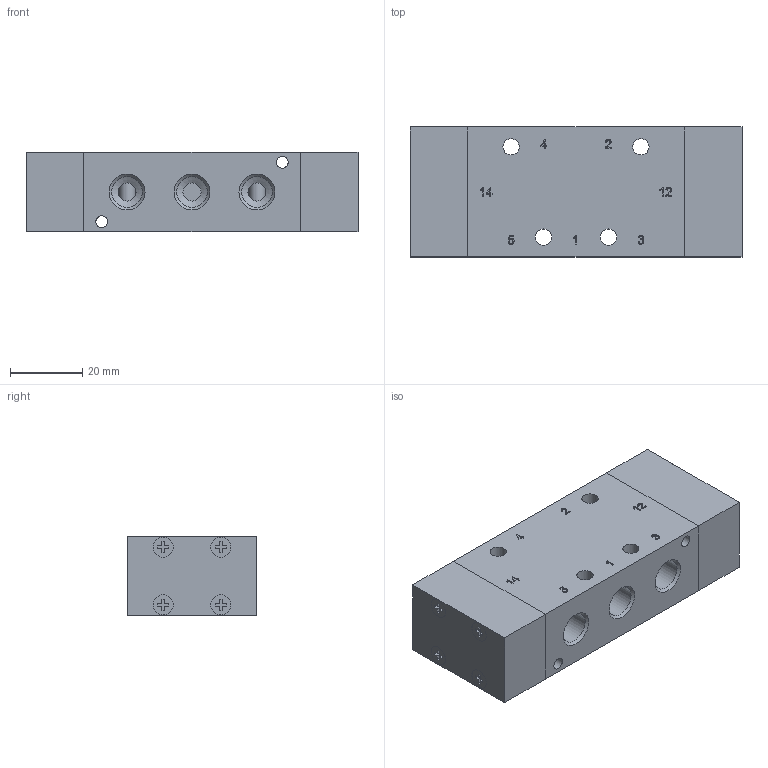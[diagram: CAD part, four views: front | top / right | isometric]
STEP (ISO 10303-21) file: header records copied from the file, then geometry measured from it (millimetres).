
FILE_DESCRIPTION(/* description */ ('Unknown'),/* implementation_level */ '2;1');
FILE_NAME(/* name */ 'P 531 501 G',/* time_stamp */ '2024-03-27T10:18:03+01:00',/* author */ ('Unknown'),/* organization */ ('HAFNER Pneumatika Kft.'),/* preprocessor_version */ 'ST-DEVELOPER v18.102',/* originating_system */ 'Solid Edge',/* authorisation */ 'Unknown');
FILE_SCHEMA (('AUTOMOTIVE_DESIGN {1 0 10303 214 3 1 1}'));
Length unit declared in the file: millimetre
Products named in the file (2): P 531 501 G
Assembly tree (1 placements, depth 2):
  P 531 501 G
    P 531 501 G
Bounding box: 92 x 36 x 22 mm (x, y, z)
Surface area: 15900.2 mm2 (no closed solid volume)
Topology: 0 solids, 4 shells, 300 faces, 1027 edges, 715 vertices
Faces by surface type: plane 199, bspline 52, cylinder 37, cone 12
Full cylindrical faces by diameter (mm): 3.3 x2, 4.5 x4, 5.6 x8, 8.566 x14
Entity records: 13676 total; most frequent: CARTESIAN_POINT 3388, ORIENTED_EDGE 1613, DIRECTION 1406, EDGE_CURVE 973, LINE 728, VECTOR 728, VERTEX_POINT 701, EDGE_LOOP 405
